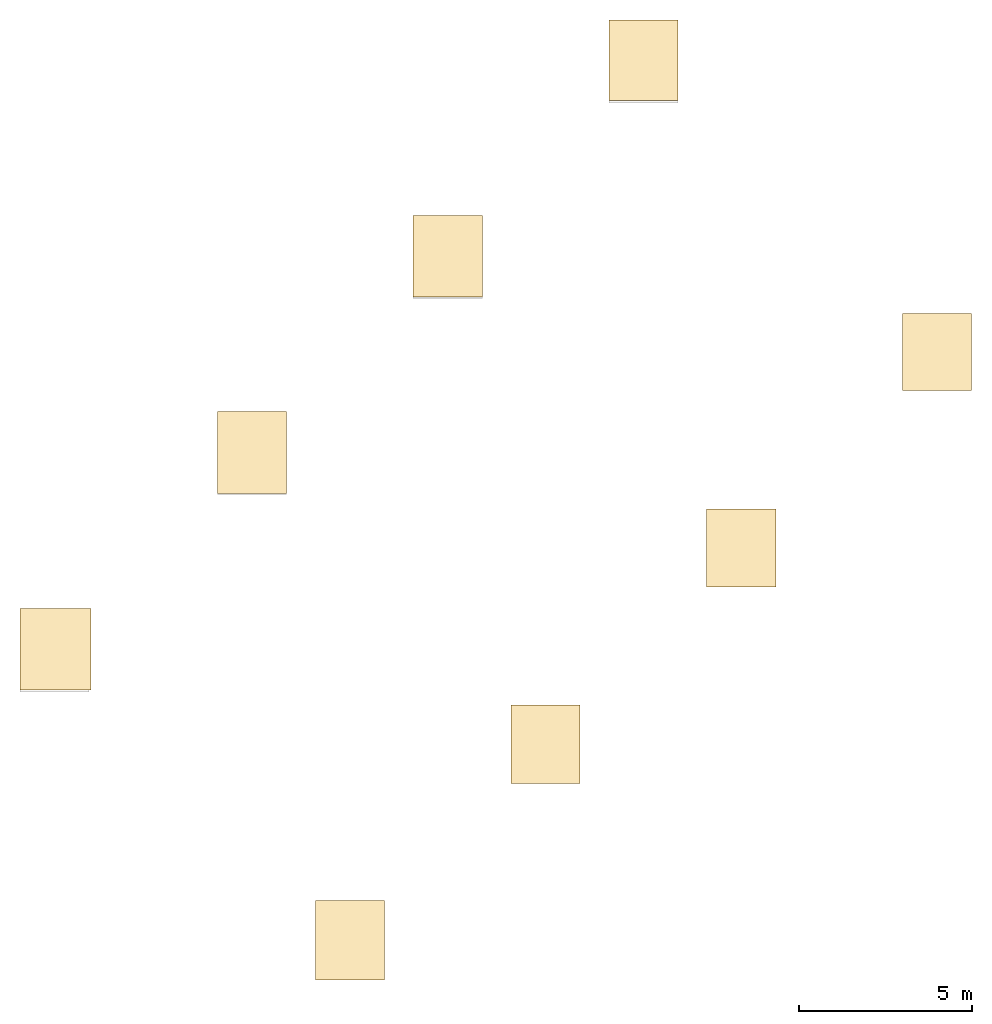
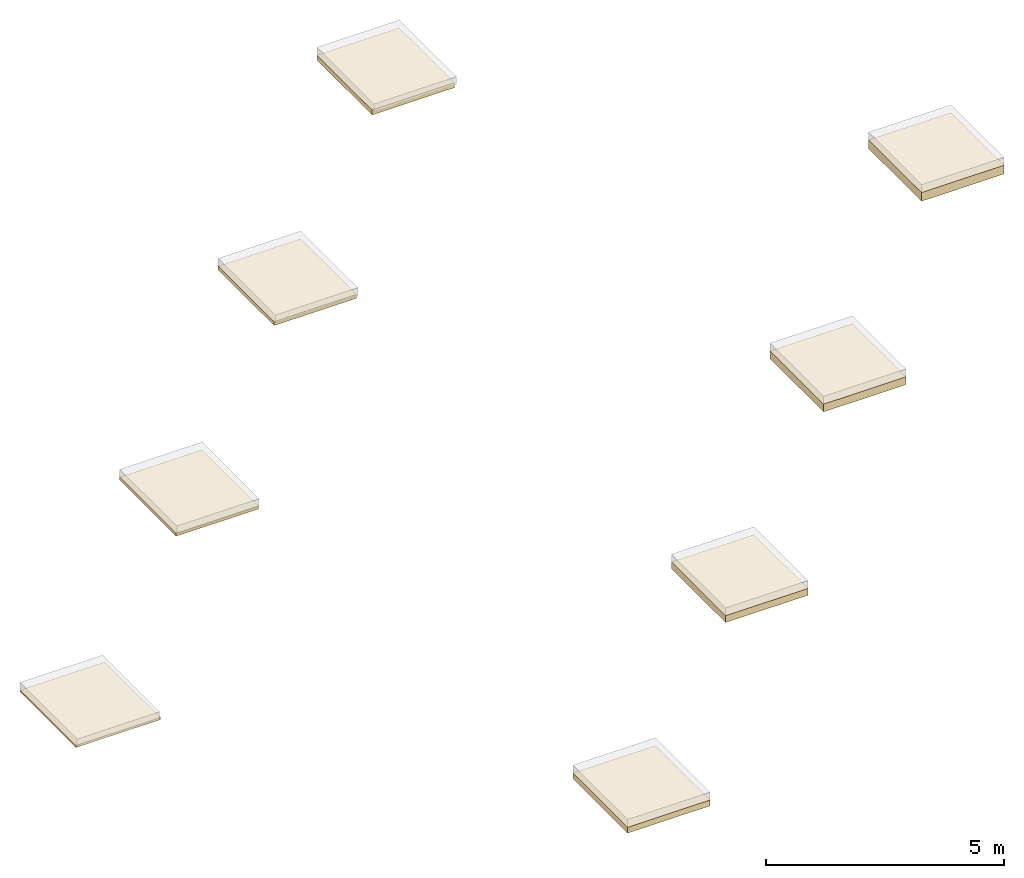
# One storey, part 2 of 2: 8 coverings.
"""IFC2X3 building model written with IfcOpenShell, lengths in millimetres."""

from ifc_helpers import new_model, entity, si_unit, converted_unit, derived_unit, direction, frame, frame_2d, origin, origin_2d_with_axis, place, context, subcontext, project, spatial, rectangle, extrude, material, layer, layer_set, layer_usage, type_object, element, save


model = new_model("IFC2X3")

# Units and contexts
model_context = context("Model", 3, precision=0.01, world=origin(), true_north=direction((6.12303176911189e-17, 1.0)))
context_of_model = context(None, 3, precision=0.01, world=origin(), true_north=direction((6.12303176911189e-17, 1.0)))
body_context = subcontext(model_context, "Body", "Model", "MODEL_VIEW")
ifc_project = project(units=[si_unit("LENGTHUNIT", "METRE", prefix="MILLI"), si_unit("AREAUNIT", "SQUARE_METRE"), si_unit("VOLUMEUNIT", "CUBIC_METRE"), converted_unit("PLANEANGLEUNIT", "DEGREE", entity("IfcRatioMeasure", 0.0174532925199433), si_unit("PLANEANGLEUNIT", "RADIAN"), dimensions=[0, 0, 0, 0, 0, 0, 0]), si_unit("MASSUNIT", "GRAM", prefix="KILO"), derived_unit("MASSDENSITYUNIT", [(si_unit("MASSUNIT", "GRAM", prefix="KILO"), 1), (si_unit("LENGTHUNIT", "METRE"), -3)]), derived_unit("MOMENTOFINERTIAUNIT", [(si_unit("LENGTHUNIT", "METRE"), 4)]), si_unit("TIMEUNIT", "SECOND"), si_unit("FREQUENCYUNIT", "HERTZ"), si_unit("THERMODYNAMICTEMPERATUREUNIT", "DEGREE_CELSIUS"), derived_unit("THERMALTRANSMITTANCEUNIT", [(si_unit("MASSUNIT", "GRAM", prefix="KILO"), 1), (si_unit("THERMODYNAMICTEMPERATUREUNIT", "KELVIN"), -1), (si_unit("TIMEUNIT", "SECOND"), -3)]), derived_unit("VOLUMETRICFLOWRATEUNIT", [(si_unit("LENGTHUNIT", "METRE"), 3), (si_unit("TIMEUNIT", "SECOND"), -1)]), si_unit("ELECTRICCURRENTUNIT", "AMPERE"), si_unit("ELECTRICVOLTAGEUNIT", "VOLT"), si_unit("POWERUNIT", "WATT"), si_unit("FORCEUNIT", "NEWTON", prefix="KILO"), si_unit("ILLUMINANCEUNIT", "LUX"), si_unit("LUMINOUSFLUXUNIT", "LUMEN"), si_unit("LUMINOUSINTENSITYUNIT", "CANDELA"), derived_unit("USERDEFINED", [(si_unit("MASSUNIT", "GRAM", prefix="KILO"), -1), (si_unit("LENGTHUNIT", "METRE"), -2), (si_unit("TIMEUNIT", "SECOND"), 3), (si_unit("LUMINOUSFLUXUNIT", "LUMEN"), 1)]), derived_unit("LINEARVELOCITYUNIT", [(si_unit("LENGTHUNIT", "METRE"), 1), (si_unit("TIMEUNIT", "SECOND"), -1)]), si_unit("PRESSUREUNIT", "PASCAL"), derived_unit("USERDEFINED", [(si_unit("LENGTHUNIT", "METRE"), -2), (si_unit("MASSUNIT", "GRAM", prefix="KILO"), 1), (si_unit("TIMEUNIT", "SECOND"), -2)]), derived_unit("LINEARFORCEUNIT", [(si_unit("MASSUNIT", "GRAM", prefix="KILO"), 1), (si_unit("LENGTHUNIT", "METRE"), 1), (si_unit("TIMEUNIT", "SECOND"), -2), (si_unit("LENGTHUNIT", "METRE"), -1)]), derived_unit("PLANARFORCEUNIT", [(si_unit("MASSUNIT", "GRAM", prefix="KILO"), 1), (si_unit("LENGTHUNIT", "METRE"), 1), (si_unit("TIMEUNIT", "SECOND"), -2), (si_unit("LENGTHUNIT", "METRE"), -2)])], contexts=[model_context, context_of_model])

# Site, building, storey
site_placement = place(None, origin())
site = spatial("IfcSite", under=ifc_project, at=site_placement, Name="Default", CompositionType="ELEMENT")
building_placement = place(site_placement, origin())
building = spatial("IfcBuilding", under=site, at=building_placement, CompositionType="ELEMENT")
storey_placement = place(building_placement, frame((0.0, 0.0, 1000.0)))
storey = spatial("IfcBuildingStorey", under=building, at=storey_placement, Name="01 eerste verdieping", CompositionType="ELEMENT", Elevation=1000.0)

# Coverings
ifc_material_1 = material(Name="Heraklith® I Tektalan A2 - Steenwol")
ifc_layer_1 = layer(ifc_material_1, 40.0)
ifc_material_2 = material(Name="Heraklith® I Tektalan A2 - Houtwollaag - 1000x600mm")
ifc_layer_2 = layer(ifc_material_2, 10.0)
ifc_layer_set_1 = layer_set([ifc_layer_1, ifc_layer_2], Name="Compound Ceiling:NLRS_45_CEI_Heraklith Tektalan A2 SmartTec 50x1000x600mm")
ifc_layer_usage_1 = layer_usage(ifc_layer_set_1, "AXIS3", "POSITIVE", 0.0)
covering_type_1 = type_object("IfcCoveringType", Name="Compound Ceiling:NLRS_45_CEI_Heraklith Tektalan A2 SmartTec 50x1000x600mm", PredefinedType="CEILING")
covering_1_placement = place(storey_placement, origin())
element("IfcCovering", 1, at=covering_1_placement, inside=storey, type_object=covering_type_1, material=ifc_layer_usage_1, Name="Compound Ceiling:NLRS_45_CEI_Heraklith Tektalan A2 SmartTec 50x1000x600mm", ObjectType="Compound Ceiling:NLRS_45_CEI_Heraklith Tektalan A2 SmartTec 50x1000x600mm", PredefinedType="CEILING", context=body_context, shape_type="SweptSolid", body=[
    extrude(rectangle(XDim=2055.0, YDim=2350.00000000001, at=frame_2d((0.0, 3.29691829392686e-12), x_axis=(1.0, 0.0))), frame((972.499999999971, 4125.0, -50.0), z_axis=(0.0, 0.0, 1.0), x_axis=(-1.0, 0.0, 0.0)), (0.0, 0.0, 1.0), 50.0),
])
ifc_layer_3 = layer(ifc_material_1, 65.0)
ifc_layer_4 = layer(ifc_material_2, 10.0)
ifc_layer_set_2 = layer_set([ifc_layer_3, ifc_layer_4], Name="Compound Ceiling:NLRS_45_CEI_Heraklith Tektalan A2 SmartTec 75x1000x600mm")
ifc_layer_usage_2 = layer_usage(ifc_layer_set_2, "AXIS3", "POSITIVE", 0.0)
covering_type_2 = type_object("IfcCoveringType", Name="Compound Ceiling:NLRS_45_CEI_Heraklith Tektalan A2 SmartTec 75x1000x600mm", PredefinedType="CEILING")
covering_2_placement = place(storey_placement, origin())
element("IfcCovering", 2, at=covering_2_placement, inside=storey, type_object=covering_type_2, material=ifc_layer_usage_2, Name="Compound Ceiling:NLRS_45_CEI_Heraklith Tektalan A2 SmartTec 75x1000x600mm", ObjectType="Compound Ceiling:NLRS_45_CEI_Heraklith Tektalan A2 SmartTec 75x1000x600mm", PredefinedType="CEILING", context=body_context, shape_type="SweptSolid", body=[
    extrude(rectangle(XDim=2000.0, YDim=2375.0, at=origin_2d_with_axis()), frame((6656.85424949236, 9819.35424949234, -75.0), z_axis=(0.0, 0.0, 1.0), x_axis=(-1.0, 0.0, 0.0)), (0.0, 0.0, 1.0), 75.0),
])
ifc_layer_5 = layer(ifc_material_1, 90.0)
ifc_layer_6 = layer(ifc_material_2, 10.0)
ifc_layer_set_3 = layer_set([ifc_layer_5, ifc_layer_6], Name="Compound Ceiling:NLRS_45_CEI_Heraklith Tektalan A2 SmartTec 100x1000x600mm")
ifc_layer_usage_3 = layer_usage(ifc_layer_set_3, "AXIS3", "POSITIVE", 0.0)
covering_type_3 = type_object("IfcCoveringType", Name="Compound Ceiling:NLRS_45_CEI_Heraklith Tektalan A2 SmartTec 100x1000x600mm", PredefinedType="CEILING")
covering_3_placement = place(storey_placement, origin())
element("IfcCovering", 3, at=covering_3_placement, inside=storey, type_object=covering_type_3, material=ifc_layer_usage_3, Name="Compound Ceiling:NLRS_45_CEI_Heraklith Tektalan A2 SmartTec 100x1000x600mm", ObjectType="Compound Ceiling:NLRS_45_CEI_Heraklith Tektalan A2 SmartTec 100x1000x600mm", PredefinedType="CEILING", context=body_context, shape_type="SweptSolid", body=[
    extrude(rectangle(XDim=2000.0, YDim=2350.0, at=origin_2d_with_axis()), frame((12313.7084989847, 15488.7084989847, -100.0), z_axis=(0.0, 0.0, 1.0), x_axis=(-1.0, 0.0, 0.0)), (0.0, 0.0, 1.0), 100.0),
])
ifc_layer_7 = layer(ifc_material_1, 115.0)
ifc_layer_8 = layer(ifc_material_2, 10.0)
ifc_layer_set_4 = layer_set([ifc_layer_7, ifc_layer_8], Name="Compound Ceiling:NLRS_45_CEI_Heraklith Tektalan A2 SmartTec 125x1000x600mm")
ifc_layer_usage_4 = layer_usage(ifc_layer_set_4, "AXIS3", "POSITIVE", 0.0)
covering_type_4 = type_object("IfcCoveringType", Name="Compound Ceiling:NLRS_45_CEI_Heraklith Tektalan A2 SmartTec 125x1000x600mm", PredefinedType="CEILING")
covering_4_placement = place(storey_placement, origin())
element("IfcCovering", 4, at=covering_4_placement, inside=storey, type_object=covering_type_4, material=ifc_layer_usage_4, Name="Compound Ceiling:NLRS_45_CEI_Heraklith Tektalan A2 SmartTec 125x1000x600mm", ObjectType="Compound Ceiling:NLRS_45_CEI_Heraklith Tektalan A2 SmartTec 125x1000x600mm", PredefinedType="CEILING", context=body_context, shape_type="SweptSolid", body=[
    extrude(rectangle(XDim=2000.0, YDim=2325.0, at=origin_2d_with_axis()), frame((17970.5627484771, 21158.0627484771, -125.0), z_axis=(0.0, 0.0, 1.0), x_axis=(-1.0, 0.0, 0.0)), (0.0, 0.0, 1.0), 125.0),
])
ifc_layer_9 = layer(ifc_material_1, 140.0)
ifc_layer_10 = layer(ifc_material_2, 10.0)
ifc_layer_set_5 = layer_set([ifc_layer_9, ifc_layer_10], Name="Compound Ceiling:NLRS_45_CEI_Heraklith Tektalan A2 SmartTec 150x1000x600mm")
ifc_layer_usage_5 = layer_usage(ifc_layer_set_5, "AXIS3", "POSITIVE", 0.0)
covering_type_5 = type_object("IfcCoveringType", Name="Compound Ceiling:NLRS_45_CEI_Heraklith Tektalan A2 SmartTec 150x1000x600mm", PredefinedType="CEILING")
covering_5_placement = place(storey_placement, origin())
element("IfcCovering", 5, at=covering_5_placement, inside=storey, type_object=covering_type_5, material=ifc_layer_usage_5, Name="Compound Ceiling:NLRS_45_CEI_Heraklith Tektalan A2 SmartTec 150x1000x600mm", ObjectType="Compound Ceiling:NLRS_45_CEI_Heraklith Tektalan A2 SmartTec 150x1000x600mm", PredefinedType="CEILING", context=body_context, shape_type="SweptSolid", body=[
    extrude(rectangle(XDim=2000.0, YDim=2300.0, at=frame_2d((0.0, -5.6843418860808e-13), x_axis=(1.0, 0.0))), frame((9485.28137423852, -4285.28137423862, -150.0), z_axis=(0.0, 0.0, 1.0), x_axis=(-1.0, 0.0, 0.0)), (0.0, 0.0, 1.0), 150.0),
])
ifc_layer_11 = layer(ifc_material_1, 165.0)
ifc_layer_12 = layer(ifc_material_2, 10.0)
ifc_layer_set_6 = layer_set([ifc_layer_11, ifc_layer_12], Name="Compound Ceiling:NLRS_45_CEI_Heraklith Tektalan A2 SmartTec 175x1000x600mm")
ifc_layer_usage_6 = layer_usage(ifc_layer_set_6, "AXIS3", "POSITIVE", 0.0)
covering_type_6 = type_object("IfcCoveringType", Name="Compound Ceiling:NLRS_45_CEI_Heraklith Tektalan A2 SmartTec 175x1000x600mm", PredefinedType="CEILING")
covering_6_placement = place(storey_placement, origin())
element("IfcCovering", 6, at=covering_6_placement, inside=storey, type_object=covering_type_6, material=ifc_layer_usage_6, Name="Compound Ceiling:NLRS_45_CEI_Heraklith Tektalan A2 SmartTec 175x1000x600mm", ObjectType="Compound Ceiling:NLRS_45_CEI_Heraklith Tektalan A2 SmartTec 175x1000x600mm", PredefinedType="CEILING", context=body_context, shape_type="SweptSolid", body=[
    extrude(rectangle(XDim=2000.0, YDim=2275.0, at=frame_2d((0.0, -1.13686837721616e-13), x_axis=(1.0, 0.0))), frame((15142.1356237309, 1384.07287525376, -175.0), z_axis=(0.0, 0.0, 1.0), x_axis=(-1.0, 0.0, 0.0)), (0.0, 0.0, 1.0), 175.0),
])
ifc_layer_13 = layer(ifc_material_1, 190.0)
ifc_layer_14 = layer(ifc_material_2, 10.0)
ifc_layer_set_7 = layer_set([ifc_layer_13, ifc_layer_14], Name="Compound Ceiling:NLRS_45_CEI_Heraklith Tektalan A2 SmartTec 200x1000x600mm")
ifc_layer_usage_7 = layer_usage(ifc_layer_set_7, "AXIS3", "POSITIVE", 0.0)
covering_type_7 = type_object("IfcCoveringType", Name="Compound Ceiling:NLRS_45_CEI_Heraklith Tektalan A2 SmartTec 200x1000x600mm", PredefinedType="CEILING")
covering_7_placement = place(storey_placement, origin())
element("IfcCovering", 7, at=covering_7_placement, inside=storey, type_object=covering_type_7, material=ifc_layer_usage_7, Name="Compound Ceiling:NLRS_45_CEI_Heraklith Tektalan A2 SmartTec 200x1000x600mm", ObjectType="Compound Ceiling:NLRS_45_CEI_Heraklith Tektalan A2 SmartTec 200x1000x600mm", PredefinedType="CEILING", context=body_context, shape_type="SweptSolid", body=[
    extrude(rectangle(XDim=2000.0, YDim=2250.0, at=frame_2d((-2.1600499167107e-12, 0.0), x_axis=(1.0, 0.0))), frame((20798.9898732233, 7053.42712474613, -200.0), z_axis=(0.0, 0.0, 1.0), x_axis=(-1.0, 0.0, 0.0)), (0.0, 0.0, 1.0), 200.0),
])
ifc_layer_15 = layer(ifc_material_1, 215.0)
ifc_layer_16 = layer(ifc_material_2, 10.0)
ifc_layer_set_8 = layer_set([ifc_layer_15, ifc_layer_16], Name="Compound Ceiling:NLRS_45_CEI_Heraklith Tektalan A2 SmartTec 225x1000x600mm")
ifc_layer_usage_8 = layer_usage(ifc_layer_set_8, "AXIS3", "POSITIVE", 0.0)
covering_type_8 = type_object("IfcCoveringType", Name="Compound Ceiling:NLRS_45_CEI_Heraklith Tektalan A2 SmartTec 225x1000x600mm", PredefinedType="CEILING")
covering_8_placement = place(storey_placement, origin())
element("IfcCovering", 8, at=covering_8_placement, inside=storey, type_object=covering_type_8, material=ifc_layer_usage_8, Name="Compound Ceiling:NLRS_45_CEI_Heraklith Tektalan A2 SmartTec 225x1000x600mm", ObjectType="Compound Ceiling:NLRS_45_CEI_Heraklith Tektalan A2 SmartTec 225x1000x600mm", PredefinedType="CEILING", context=body_context, shape_type="SweptSolid", body=[
    extrude(rectangle(XDim=2000.0, YDim=2225.0, at=origin_2d_with_axis()), frame((26455.8441227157, 12722.7813742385, -225.0), z_axis=(0.0, 0.0, 1.0), x_axis=(-1.0, 0.0, 0.0)), (0.0, 0.0, 1.0), 225.0),
])

save(model, "model.ifc")
